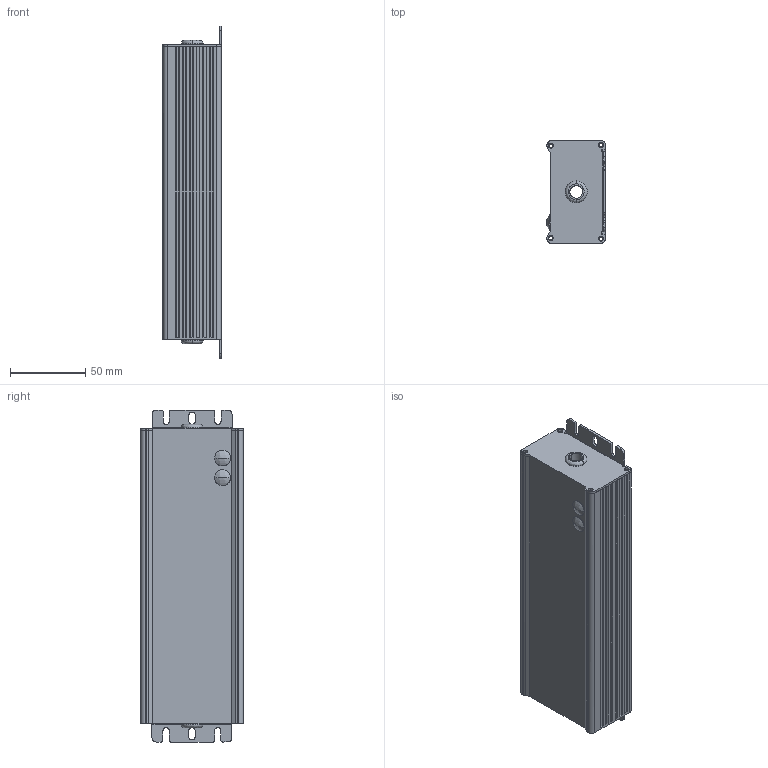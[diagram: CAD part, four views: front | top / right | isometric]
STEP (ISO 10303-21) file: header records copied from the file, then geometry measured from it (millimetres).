
FILE_DESCRIPTION (( 'STEP AP203' ), '1' );
FILE_NAME ('3D_TIP2.STEP', '2021-09-24T07:38:01', ( '' ), ( '' ), 'SwSTEP 2.0', 'SolidWorks 2015', '' );
FILE_SCHEMA (( 'CONFIG_CONTROL_DESIGN' ));
Length unit declared in the file: millimetre
Products named in the file (2): 3D_TIP2; CASE_1
Assembly tree (1 placements, depth 2):
  3D_TIP2
    CASE_1
Bounding box: 39.04 x 68.05 x 220 mm (x, y, z)
Volume: 92880.8 mm3; surface area: 100848.9 mm2
Topology: 1 solids, 1 shells, 299 faces, 853 edges, 558 vertices
Faces by surface type: plane 158, cylinder 105, cone 24, bspline 12
Entity records: 13787 total; most frequent: CARTESIAN_POINT 6208, ORIENTED_EDGE 1706, DIRECTION 1279, EDGE_CURVE 853, VERTEX_POINT 558, VECTOR 525, LINE 525, AXIS2_PLACEMENT_3D 377
